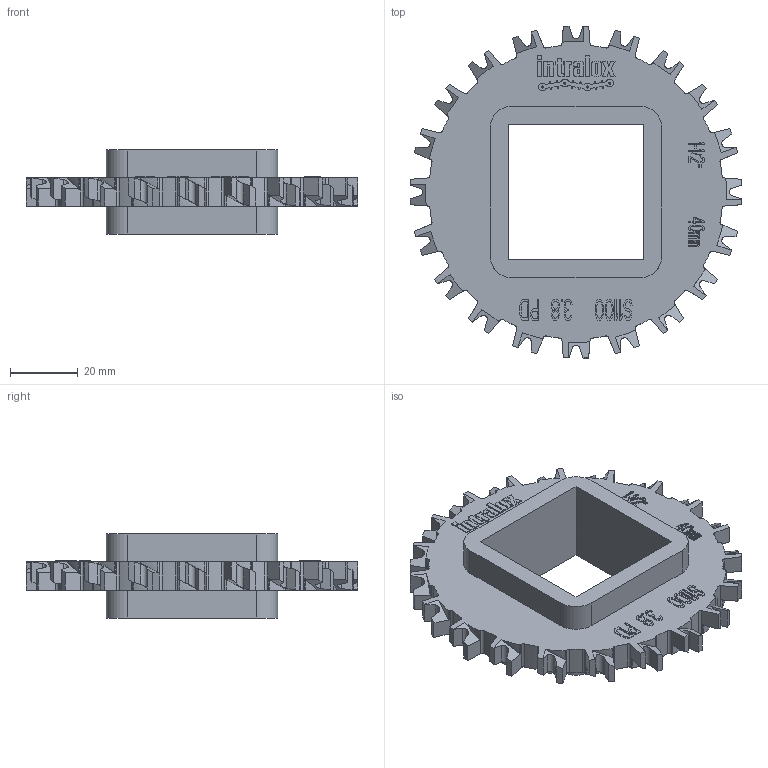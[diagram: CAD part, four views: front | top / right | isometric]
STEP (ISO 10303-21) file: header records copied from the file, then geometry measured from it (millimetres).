
FILE_DESCRIPTION((''),'2;1');
FILE_NAME('S1100_SPROCKET_38X15_40_SQ','2008-12-12T',('jmumphre'),(''),'PRO/ENGINEER BY PARAMETRIC TECHNOLOGY CORPORATION, 2008150','PRO/ENGINEER BY PARAMETRIC TECHNOLOGY CORPORATION, 2008150','');
FILE_SCHEMA(('CONFIG_CONTROL_DESIGN'));
Length unit declared in the file: inch
Products named in the file (1): S1100_SPROCKET_38X15_40_SQ
Bounding box: 98.35 x 98.35 x 24.89 mm (x, y, z)
Volume: 56883.1 mm3; surface area: 21560.5 mm2
Topology: 1 solids, 1 shells, 1111 faces, 3186 edges, 2124 vertices
Faces by surface type: plane 855, cylinder 256
Entity records: 36656 total; most frequent: CARTESIAN_POINT 7341, ORIENTED_EDGE 6372, DIRECTION 5680, EDGE_CURVE 3186, VECTOR 2674, LINE 2674, VERTEX_POINT 2124, AXIS2_PLACEMENT_3D 1503
